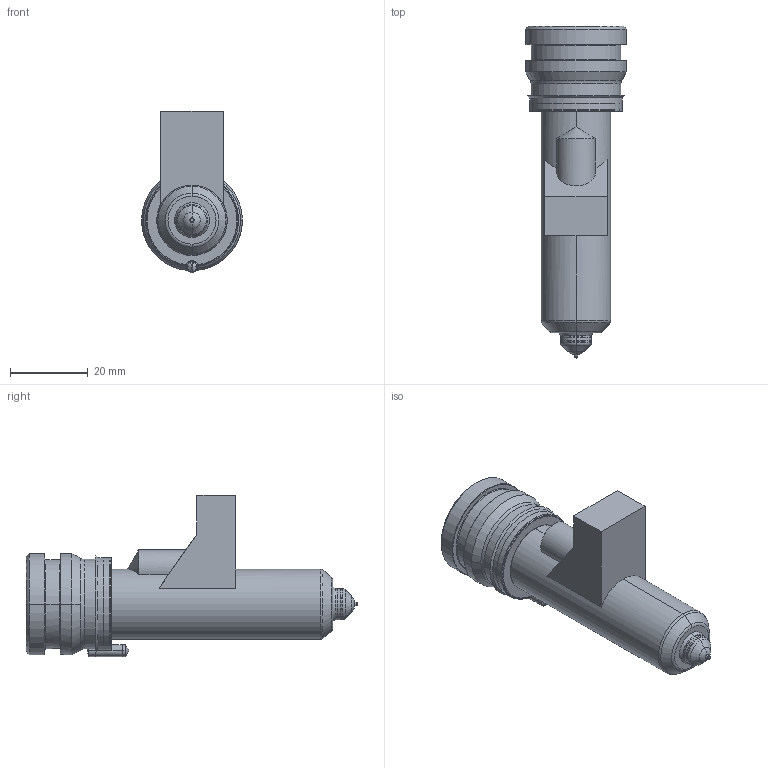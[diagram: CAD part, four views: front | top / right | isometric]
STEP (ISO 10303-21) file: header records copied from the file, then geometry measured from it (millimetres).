
FILE_DESCRIPTION((''),'2;1');
FILE_NAME('MPN-08-24-VX8-066-M','2026-02-05T13:30:42',('UPTIO'),('Thermoplay S.p.A.'),'CREO PARAMETRIC BY PTC INC, 2023494','CREO PARAMETRIC BY PTC INC, 2023494','');
FILE_SCHEMA(('CONFIG_CONTROL_DESIGN','SHAPE_APPEARANCE_LAYERS_GROUPS'));
Length unit declared in the file: millimetre
Products named in the file (1): MPN-08-24-VX8-066-M
Bounding box: 26 x 85.5 x 41.5 mm (x, y, z)
Volume: 17694 mm3; surface area: 22734.4 mm2
Topology: 2 solids, 3 shells, 529 faces, 1372 edges, 842 vertices
Faces by surface type: cylinder 174, plane 143, bspline 77, torus 60, cone 60, sphere 9, extrusion 6
Entity records: 28135 total; most frequent: CARTESIAN_POINT 12614, ORIENTED_EDGE 2726, DIRECTION 2495, EDGE_CURVE 1363, AXIS2_PLACEMENT_3D 975, VERTEX_POINT 842, EDGE_LOOP 559, VECTOR 545
